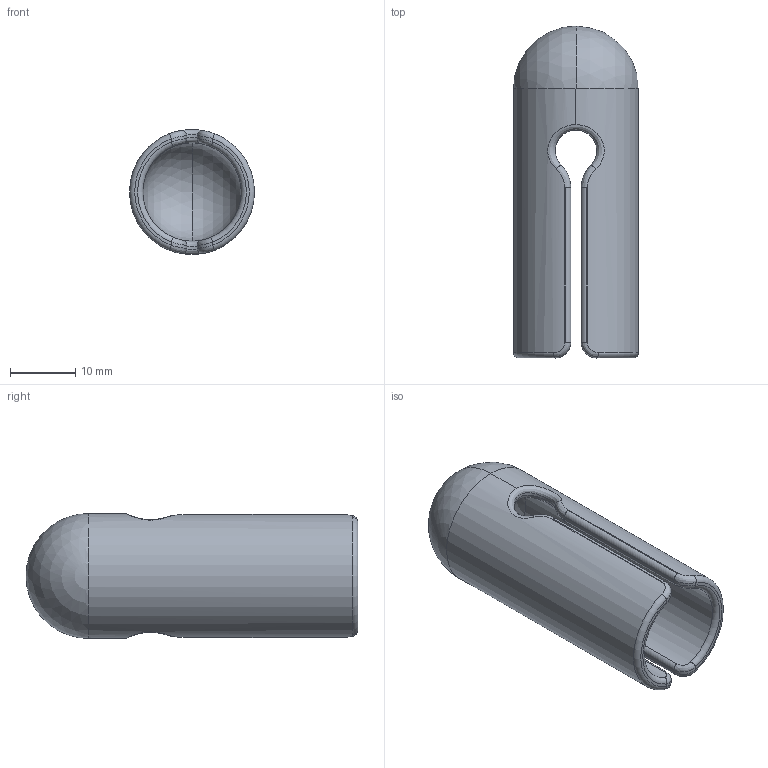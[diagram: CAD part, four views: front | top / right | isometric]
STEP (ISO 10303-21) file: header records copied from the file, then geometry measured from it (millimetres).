
FILE_DESCRIPTION (( 'STEP AP203' ), '1' );
FILE_NAME ('Finger splint Size 5.STEP', '2018-02-19T16:30:01', ( '' ), ( '' ), 'SwSTEP 2.0', 'SolidWorks 2015', '' );
FILE_SCHEMA (( 'CONFIG_CONTROL_DESIGN' ));
Length unit declared in the file: inch
Products named in the file (1): Finger splint Size 5
Bounding box: 19.15 x 50.85 x 19.15 mm (x, y, z)
Volume: 5059.6 mm3; surface area: 5306.8 mm2
Topology: 1 solids, 1 shells, 62 faces, 154 edges, 90 vertices
Faces by surface type: cylinder 28, bspline 20, plane 6, sphere 4, torus 4
Entity records: 3661 total; most frequent: CARTESIAN_POINT 2311, ORIENTED_EDGE 292, DIRECTION 232, EDGE_CURVE 146, AXIS2_PLACEMENT_3D 95, VERTEX_POINT 86, EDGE_LOOP 62, FACE_OUTER_BOUND 62
